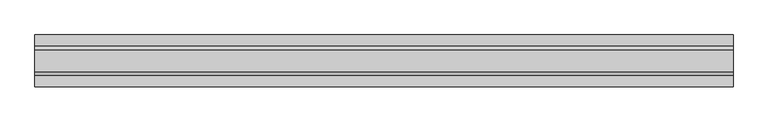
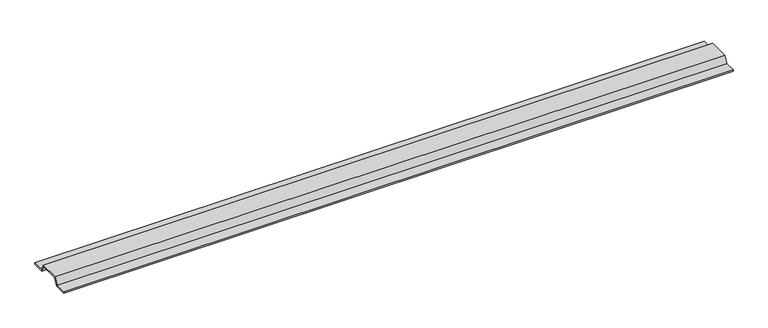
"""IFC4 building model written with IfcOpenShell, lengths in millimetres: beam geometry, B-Deck_Single_Flute_3d_14388 : B-Deck_Single_Flute_3d_14388."""

import ifcopenshell
import ifcopenshell.guid

model = None  # the IFC model being written
_history = None  # IfcOwnerHistory: only IFC2X3 demands one
_inside = {}  # id of a spatial element -> (the spatial element, [elements in it])
_under = {}  # id of a project, library or spatial element -> (it, [spatial elements below it])
_declared = {}  # id of a project -> (the project, [libraries it declares])
_typed = {}  # id of a type object -> (the type object, [elements of that type])
_made_of = {}  # id of a material, layer set ... -> (it, [elements and type objects made of it])


def new_model(schema):
    """Start an empty IFC model of exactly this schema.

    Asked for "IFC4X3", IfcOpenShell would pick the latest addendum, in which some entities
    have other attributes; the version numbers below select the first issue.
    IFC2X3 requires an IfcOwnerHistory on every rooted entity: one is made here for all.
    """
    global model, _history
    if schema == "IFC4X3":
        model = ifcopenshell.file(schema_version=(4, 3, 0, 0))
    else:
        model = ifcopenshell.file(schema=schema)
    _inside.clear()
    _under.clear()
    _declared.clear()
    _typed.clear()
    _made_of.clear()
    _history = None
    if model.schema == "IFC2X3":
        org = make("IfcOrganization", Name="unknown")
        user = make(
            "IfcPersonAndOrganization",
            ThePerson=make("IfcPerson", FamilyName="unknown"),
            TheOrganization=org,
        )
        app = make(
            "IfcApplication",
            ApplicationDeveloper=org,
            Version="unknown",
            ApplicationFullName="unknown",
            ApplicationIdentifier="unknown",
        )
        _history = make(
            "IfcOwnerHistory",
            OwningUser=user,
            OwningApplication=app,
            ChangeAction="ADDED",
            CreationDate=0,
        )
    return model


def make(cls, **values):
    """One entity of the class cls with the attributes given. An attribute that is None is left unset."""
    return model.create_entity(
        cls, **{name: value for name, value in values.items() if value is not None}
    )


def rooted(cls, **values):
    """An entity with a GlobalId (a new one), such as an element, a storey or a relation."""
    return make(cls, GlobalId=ifcopenshell.guid.new(), OwnerHistory=_history, **values)


def si_unit(unit_type, name, prefix=None):
    """IfcSIUnit, for example si_unit("LENGTHUNIT", "METRE", prefix="MILLI")."""
    return make("IfcSIUnit", UnitType=unit_type, Prefix=prefix, Name=name)


def assignment(units):
    """IfcUnitAssignment: the units of a project."""
    return None if units is None else make("IfcUnitAssignment", Units=units)


def point(xyz):
    """IfcCartesianPoint."""
    return None if xyz is None else make("IfcCartesianPoint", Coordinates=xyz)


def direction(xyz):
    """IfcDirection."""
    return None if xyz is None else make("IfcDirection", DirectionRatios=xyz)


def frame(location, z_axis=None, x_axis=None):
    """IfcAxis2Placement3D, a coordinate frame: its origin and axes. An axis left out is left unset."""
    return make(
        "IfcAxis2Placement3D",
        Location=point(location),
        Axis=direction(z_axis),
        RefDirection=direction(x_axis),
    )


def origin():
    """The frame at (0, 0, 0) with its axes left unset."""
    return frame((0.0, 0.0, 0.0))


def place(relative_to, where):
    """IfcLocalPlacement: puts the frame where relative to a parent placement (None: the world)."""
    return make(
        "IfcLocalPlacement", PlacementRelTo=relative_to, RelativePlacement=where
    )


def context(
    kind, dimensions, precision=None, world=None, true_north=None, identifier=None
):
    """IfcGeometricRepresentationContext, for example the 3D "Model" context."""
    return make(
        "IfcGeometricRepresentationContext",
        ContextIdentifier=identifier,
        ContextType=kind,
        CoordinateSpaceDimension=dimensions,
        Precision=precision,
        WorldCoordinateSystem=world,
        TrueNorth=true_north,
    )


def project(units=None, contexts=None):
    """IfcProject with its units and contexts."""
    return rooted(
        "IfcProject",
        Name="project",
        RepresentationContexts=contexts,
        UnitsInContext=assignment(units),
    )


def spatial(cls, under=None, at=None, **own):
    """A site, building, storey or space (cls), placed at a placement, below another one or the project."""
    s = rooted(cls, ObjectPlacement=at, **own)
    if under is not None:
        _under.setdefault(under.id(), (under, []))[1].append(s)
    return s


def polyline(points):
    """IfcPolyline through the points."""
    return make("IfcPolyline", Points=[point(p) for p in points])


def outline(outer, holes=None, kind="AREA"):
    """IfcArbitraryClosedProfileDef: a profile drawn as a closed curve; with holes, ...WithVoids."""
    if holes is None:
        return make("IfcArbitraryClosedProfileDef", ProfileType=kind, OuterCurve=outer)
    return make(
        "IfcArbitraryProfileDefWithVoids",
        ProfileType=kind,
        OuterCurve=outer,
        InnerCurves=holes,
    )


def extrude(swept, where, along, depth):
    """IfcExtrudedAreaSolid: the profile swept, set in the frame where, extruded along a direction by depth."""
    return make(
        "IfcExtrudedAreaSolid",
        SweptArea=swept,
        Position=where,
        ExtrudedDirection=direction(along),
        Depth=depth,
    )


def shape(context_of_items, identifier, shape_type, items):
    """IfcShapeRepresentation: the items that make up one representation, for example the "Body"."""
    return make(
        "IfcShapeRepresentation",
        ContextOfItems=context_of_items,
        RepresentationIdentifier=identifier,
        RepresentationType=shape_type,
        Items=items,
    )


def source(mapping_origin, context_of_items, identifier, shape_type, items):
    """IfcRepresentationMap: a shape defined once, which mapped items show again and again."""
    return make(
        "IfcRepresentationMap",
        MappingOrigin=mapping_origin,
        MappedRepresentation=shape(context_of_items, identifier, shape_type, items),
    )


def transform(
    local_origin,
    x_axis=None,
    y_axis=None,
    z_axis=None,
    scale=None,
    scale2=None,
    scale3=None,
    uniform=True,
):
    """IfcCartesianTransformationOperator3D, or its non-uniform kind. x_axis, y_axis, z_axis: its Axis1, 2, 3."""
    if uniform:
        return make(
            "IfcCartesianTransformationOperator3D",
            Axis1=direction(x_axis),
            Axis2=direction(y_axis),
            LocalOrigin=point(local_origin),
            Scale=scale,
            Axis3=direction(z_axis),
        )
    return make(
        "IfcCartesianTransformationOperator3DnonUniform",
        Axis1=direction(x_axis),
        Axis2=direction(y_axis),
        LocalOrigin=point(local_origin),
        Scale=scale,
        Axis3=direction(z_axis),
        Scale2=scale2,
        Scale3=scale3,
    )


def mapped(mapping_source, mapping_target):
    """IfcMappedItem: shows the shape of a source again, moved by a transform."""
    return make(
        "IfcMappedItem", MappingSource=mapping_source, MappingTarget=mapping_target
    )


def made_of(thing, what):
    """Note that an element or type object is made of a material, layer set ...; save() writes the relation."""
    if what is not None:
        _made_of.setdefault(what.id(), (what, []))[1].append(thing)
    return thing


def element(
    cls,
    number,
    at=None,
    inside=None,
    cuts=None,
    type_object=None,
    material=None,
    context=None,
    identifier="Body",
    shape_type=None,
    held_by="IfcProductDefinitionShape",
    body=None,
    shapes=None,
    **own,
):
    """One element of the class cls, such as IfcWall. Its Tag is "e" and its number.

    at: its placement. inside: the storey or other place that contains it. cuts: it is an
    opening in that element (IfcRelVoidsElement). A single representation is given by context,
    identifier, shape_type and body (its items); several are given by shapes. held_by: the class
    of the entity that holds the representations. save() writes the other relations.
    """
    e = rooted(cls, Tag="e%d" % number, ObjectPlacement=at, **own)
    if body is not None:
        shapes = [shape(context, identifier, shape_type, body)]
    if shapes is not None:
        e.Representation = make(held_by, Representations=shapes)
    if inside is not None:
        _inside.setdefault(inside.id(), (inside, []))[1].append(e)
    if cuts is not None:
        rooted(
            "IfcRelVoidsElement", RelatingBuildingElement=cuts, RelatedOpeningElement=e
        )
    if type_object is not None:
        _typed.setdefault(type_object.id(), (type_object, []))[1].append(e)
    return made_of(e, material)


def aggregate(whole, parts):
    """IfcRelAggregates: a whole, such as a stair, and the parts it consists of."""
    return rooted("IfcRelAggregates", RelatingObject=whole, RelatedObjects=parts)


def save(model, path):
    """Write the relations noted so far, then the file.

    IfcRelAggregates (storeys below a building ...), IfcRelContainedInSpatialStructure (elements
    in a storey), IfcRelDefinesByType, IfcRelAssociatesMaterial and IfcRelDeclares: one each for
    every whole, place, type object, material and project.
    """
    for whole, parts in _under.values():
        aggregate(whole, parts)
    for where, things in _inside.values():
        rooted(
            "IfcRelContainedInSpatialStructure",
            RelatedElements=things,
            RelatingStructure=where,
        )
    for kind, things in _typed.values():
        rooted("IfcRelDefinesByType", RelatedObjects=things, RelatingType=kind)
    for what, things in _made_of.values():
        rooted("IfcRelAssociatesMaterial", RelatedObjects=things, RelatingMaterial=what)
    for by, libraries in _declared.values():
        rooted("IfcRelDeclares", RelatingContext=by, RelatedDefinitions=libraries)
    model.write(path)


def beam_2f59a93e(model_context):
    return source(origin(), model_context, "Body", "SweptSolid", [
        extrude(outline(polyline([(101.6, 6.35), (101.6, 0.0), (53.9397353, 0.0), (38.0647353, 27.4963066), (-38.0647353, 27.4963066), (-53.9397353, 0.0), (-101.6, 0.0), (-101.6, 6.35), (-57.6059095, 6.35), (-41.7309095, 33.8463066), (41.7309095, 33.8463066), (57.6059095, 6.35), (101.6, 6.35)])), frame((-1400.175, 0.0, 0.0), z_axis=(1.0, 0.0, 0.0), x_axis=(0.0, 1.0, 0.0)), (0.0, 0.0, 1.0), 2727.325),
    ])


if __name__ == "__main__":
    model = new_model("IFC4")
    model_context = context("Model", 3, world=origin())
    ifc_project = project(units=[si_unit("LENGTHUNIT", "METRE", prefix="MILLI")], contexts=[model_context])
    site = spatial("IfcSite", under=ifc_project)
    building = spatial("IfcBuilding", under=site)
    placement = place(None, origin())
    beam_shape = beam_2f59a93e(model_context)
    element("IfcBeam", 1, ObjectType="B-Deck_Single_Flute_3d_14388 : B-Deck_Single_Flute_3d_14388", at=placement, inside=building, context=model_context, shape_type="MappedRepresentation", body=[
        mapped(beam_shape, transform((0.0, 0.0, 0.0), x_axis=(1.0, 0.0, 0.0), y_axis=(0.0, 1.0, 0.0), z_axis=(0.0, 0.0, 1.0))),
    ])
    save(model, "model.ifc")
